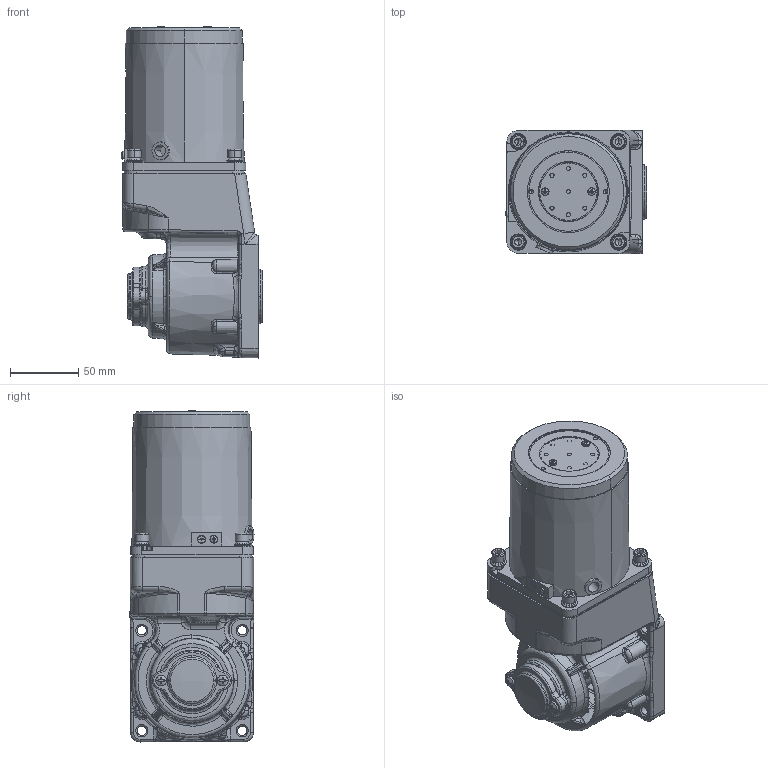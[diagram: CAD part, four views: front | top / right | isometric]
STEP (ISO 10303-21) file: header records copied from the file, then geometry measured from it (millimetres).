
FILE_DESCRIPTION (( 'STEP AP203' ), '1' );
FILE_NAME ('5RK40GU-C(5GU3RC-180RC)ÐÂ.STEP', '2022-02-23T06:13:29', ( 'PC' ), ( 'Microsoft' ), 'SwSTEP 2.0', 'SolidWorks 2014', '' );
FILE_SCHEMA (( 'CONFIG_CONTROL_DESIGN' ));
Length unit declared in the file: millimetre
Products named in the file (8): 5RK40GU-C(5GU3RC-180RC)陔; 90妗陑俋倛芞; 90諾陑怀堤粣; hexagon socket head cap screws gb_GB_FASTENER_SCREWS_HSHCS M5X12-N; ZD-5GU50RC-505-003綴傷裔1; 5RK40GU-C(5GU3RC-180RC); cross recessed pan head screws gb_GB_CROSS_SCREWS_TYPE1 M4X6-6  H type-N; 90RT妗陑怀堤傷裔
Assembly tree (11 placements, depth 2):
  5RK40GU-C(5GU3RC-180RC)陔
    90妗陑俋倛芞
    90RT妗陑怀堤傷裔
    90諾陑怀堤粣
    hexagon socket head cap screws gb_GB_FASTENER_SCREWS_HSHCS M5X12-N  x4
    ZD-5GU50RC-505-003綴傷裔1
    cross recessed pan head screws gb_GB_CROSS_SCREWS_TYPE1 M4X6-6  H type-N  x2
    5RK40GU-C(5GU3RC-180RC)
Bounding box: 103.85 x 90.89 x 243.3 mm (x, y, z)
Volume: 1463850.4 mm3; surface area: 170898.6 mm2
Topology: 31 solids, 31 shells, 2119 faces, 5112 edges, 2984 vertices
Faces by surface type: plane 571, cone 548, bspline 483, cylinder 430, torus 83, sphere 4
Entity records: 85774 total; most frequent: CARTESIAN_POINT 41887, ORIENTED_EDGE 9510, DIRECTION 8303, EDGE_CURVE 4755, AXIS2_PLACEMENT_3D 3316, VERTEX_POINT 2841, EDGE_LOOP 2118, ADVANCED_FACE 2019
